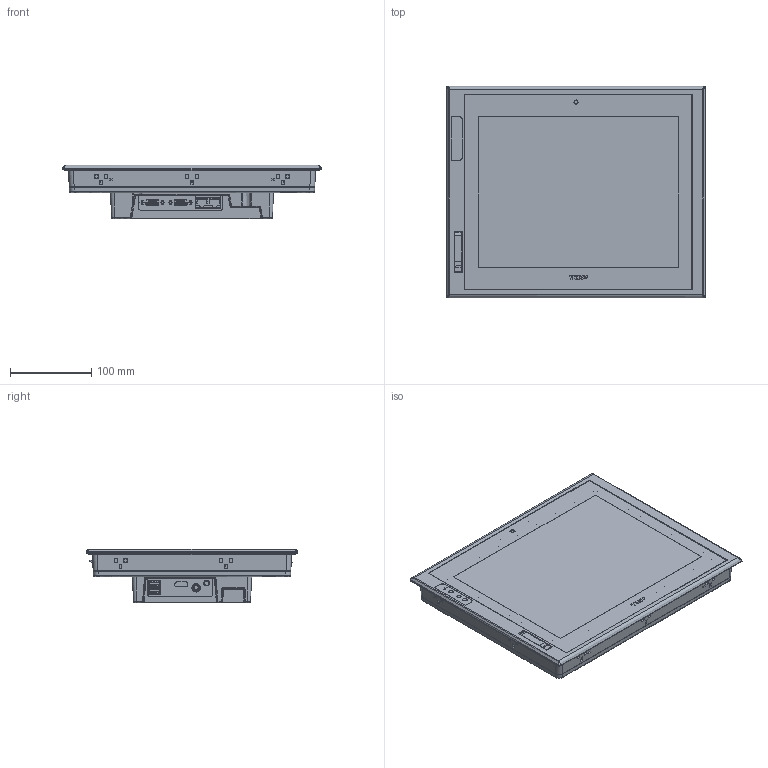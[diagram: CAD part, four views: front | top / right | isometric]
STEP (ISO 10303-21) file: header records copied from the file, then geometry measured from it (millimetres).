
FILE_DESCRIPTION((''),'2;1');
FILE_NAME('TOPRD1220S0_TOPRP20D0_ASM','2015-02-09T',('bckim'),(''),'PRO/ENGINEER BY PARAMETRIC TECHNOLOGY CORPORATION, 2013410','PRO/ENGINEER BY PARAMETRIC TECHNOLOGY CORPORATION, 2013410','');
FILE_SCHEMA(('CONFIG_CONTROL_DESIGN'));
Products named in the file (3): 00_DP12; 00_PROCESS; TOPRD1220S0_TOPRP20D0_ASM
Assembly tree (2 placements, depth 2):
  TOPRD1220S0_TOPRP20D0_ASM
    00_DP12
    00_PROCESS
Bounding box: 320 x 261 x 66.5 mm (x, y, z)
Volume: 3083314.7 mm3; surface area: 470616.7 mm2
Topology: 2 solids, 33 shells, 3834 faces, 9862 edges, 6178 vertices
Faces by surface type: bspline 3834
Entity records: 246936 total; most frequent: CARTESIAN_POINT 158821, ORIENTED_EDGE 19600, DIRECTION 9831, EDGE_CURVE 9800, VECTOR 6275, LINE 6275, VERTEX_POINT 6176, EDGE_LOOP 4044
